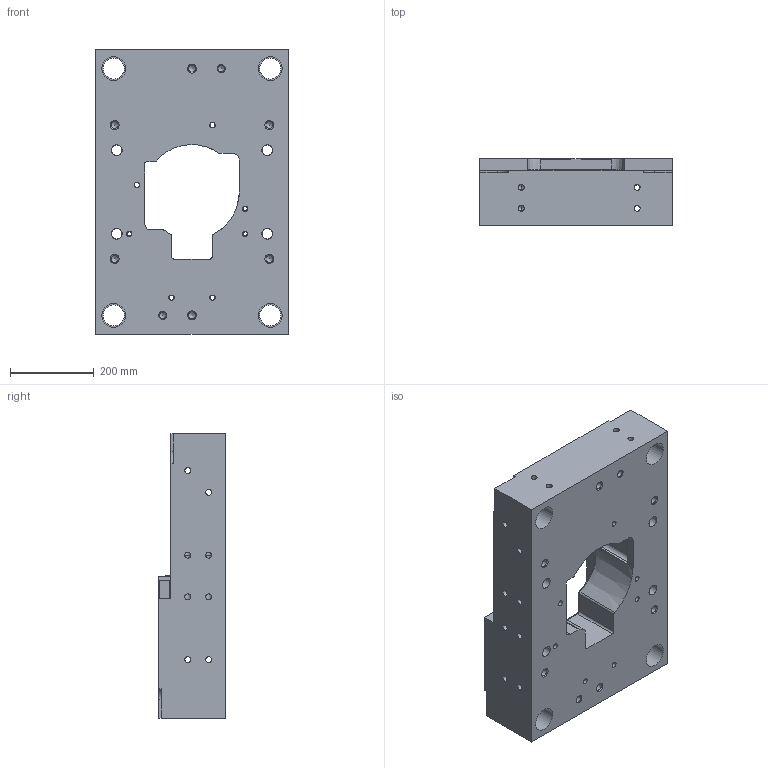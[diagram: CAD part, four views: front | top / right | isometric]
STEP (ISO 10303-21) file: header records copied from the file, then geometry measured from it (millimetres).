
FILE_DESCRIPTION(('STEP AP203'), '1');
FILE_NAME('10 ﾌ瑣', '', ('UNSPECIFIED'), ('UNSPECIFIED'), 'C3D Converter', 'C3D Toolkit', '');
FILE_SCHEMA(('CONFIG_CONTROL_DESIGN'));
Length unit declared in the file: millimetre
Products named in the file (1): ПФН 295 106/10
Bounding box: 460 x 159.6 x 680 mm (x, y, z)
Volume: 32452574.1 mm3; surface area: 1413804.9 mm2
Topology: 1 solids, 1 shells, 318 faces, 860 edges, 533 vertices
Faces by surface type: plane 157, cylinder 90, cone 44, bspline 21, torus 6
Full cylindrical faces by diameter (mm): 10 x3, 12 x4, 13 x7, 14.376 x18, 14.38 x8, 16 x2, 17.294 x6, 25 x4, 26 x4, 50 x4, 57 x4
Entity records: 17367 total; most frequent: CARTESIAN_POINT 7296, ORIENTED_EDGE 1500, DIRECTION 1480, EDGE_CURVE 750, AXIS2_PLACEMENT_3D 528, VERTEX_POINT 521, EDGE_LOOP 473, LINE 424
